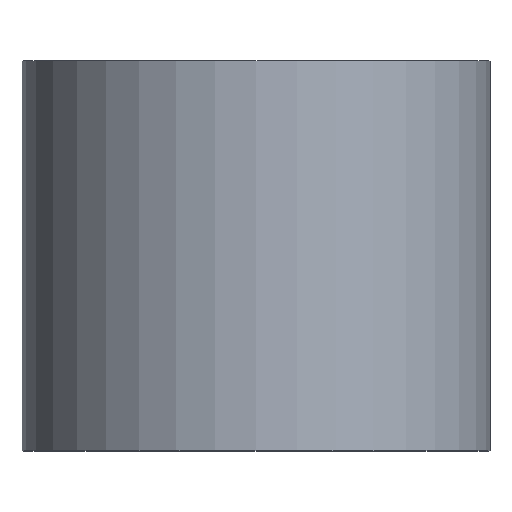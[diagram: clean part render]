
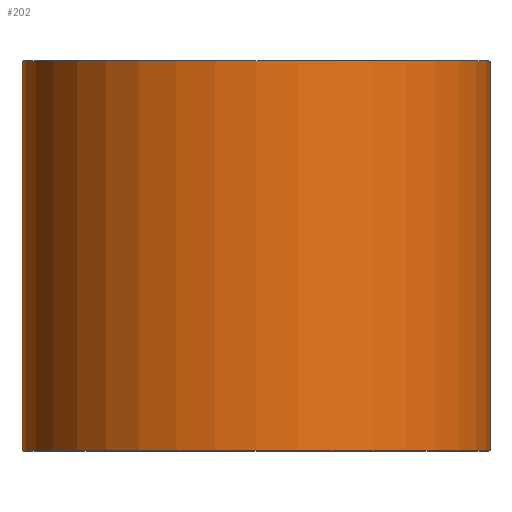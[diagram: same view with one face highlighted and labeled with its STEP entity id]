
A CAD part, top view. The second image highlights one B-rep face of the part: STEP entity #202.
In plain terms, the highlighted cylindrical face has radius 6 mm (diameter 12 mm), a partial arc.
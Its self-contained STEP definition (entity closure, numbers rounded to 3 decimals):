
#1 = VERTEX_POINT ( 'NONE', #284 ) ;
#13 = CARTESIAN_POINT ( 'NONE',  ( -6., 10., 0. ) ) ;
#14 = DIRECTION ( 'NONE',  ( 0., 1., 0. ) ) ;
#16 = CARTESIAN_POINT ( 'NONE',  ( -6., 0., 0. ) ) ;
#27 = EDGE_CURVE ( 'NONE', #1, #135, #72, .T. ) ;
#32 = CIRCLE ( 'NONE', #191, 6. ) ;
#42 = DIRECTION ( 'NONE',  ( 0., 1., 0. ) ) ;
#55 = VECTOR ( 'NONE', #174, 1000. ) ;
#64 = DIRECTION ( 'NONE',  ( 0., 1., 0. ) ) ;
#66 = VERTEX_POINT ( 'NONE', #102 ) ;
#72 = LINE ( 'NONE', #85, #94 ) ;
#75 = VERTEX_POINT ( 'NONE', #13 ) ;
#85 = CARTESIAN_POINT ( 'NONE',  ( 6., 0., 0. ) ) ;
#94 = VECTOR ( 'NONE', #188, 1000. ) ;
#102 = CARTESIAN_POINT ( 'NONE',  ( -6., 0., 0. ) ) ;
#107 = CARTESIAN_POINT ( 'NONE',  ( 0., 0., 0. ) ) ;
#108 = DIRECTION ( 'NONE',  ( -1., 0., 0. ) ) ;
#111 = CARTESIAN_POINT ( 'NONE',  ( 6., 10., 0. ) ) ;
#114 = CIRCLE ( 'NONE', #217, 6. ) ;
#118 = EDGE_CURVE ( 'NONE', #66, #75, #148, .T. ) ;
#130 = DIRECTION ( 'NONE',  ( -1., 0., 0. ) ) ;
#131 = FACE_OUTER_BOUND ( 'NONE', #156, .T. ) ;
#135 = VERTEX_POINT ( 'NONE', #111 ) ;
#138 = ORIENTED_EDGE ( 'NONE', *, *, #27, .T. ) ;
#148 = LINE ( 'NONE', #16, #55 ) ;
#153 = AXIS2_PLACEMENT_3D ( 'NONE', #107, #14, #172 ) ;
#156 = EDGE_LOOP ( 'NONE', ( #220, #138, #194, #185 ) ) ;
#160 = EDGE_CURVE ( 'NONE', #66, #1, #114, .T. ) ;
#171 = CARTESIAN_POINT ( 'NONE',  ( 0., 0., 0. ) ) ;
#172 = DIRECTION ( 'NONE',  ( -1., 0., 0. ) ) ;
#173 = CYLINDRICAL_SURFACE ( 'NONE', #153, 6. ) ;
#174 = DIRECTION ( 'NONE',  ( 0., 1., 0. ) ) ;
#179 = EDGE_CURVE ( 'NONE', #75, #135, #32, .T. ) ;
#185 = ORIENTED_EDGE ( 'NONE', *, *, #118, .F. ) ;
#188 = DIRECTION ( 'NONE',  ( 0., 1., 0. ) ) ;
#191 = AXIS2_PLACEMENT_3D ( 'NONE', #238, #64, #108 ) ;
#194 = ORIENTED_EDGE ( 'NONE', *, *, #179, .F. ) ;
#202 = ADVANCED_FACE ( 'NONE', ( #131 ), #173, .T. ) ;
#217 = AXIS2_PLACEMENT_3D ( 'NONE', #171, #42, #130 ) ;
#220 = ORIENTED_EDGE ( 'NONE', *, *, #160, .T. ) ;
#238 = CARTESIAN_POINT ( 'NONE',  ( 0., 10., 0. ) ) ;
#284 = CARTESIAN_POINT ( 'NONE',  ( 6., 0., 0. ) ) ;
